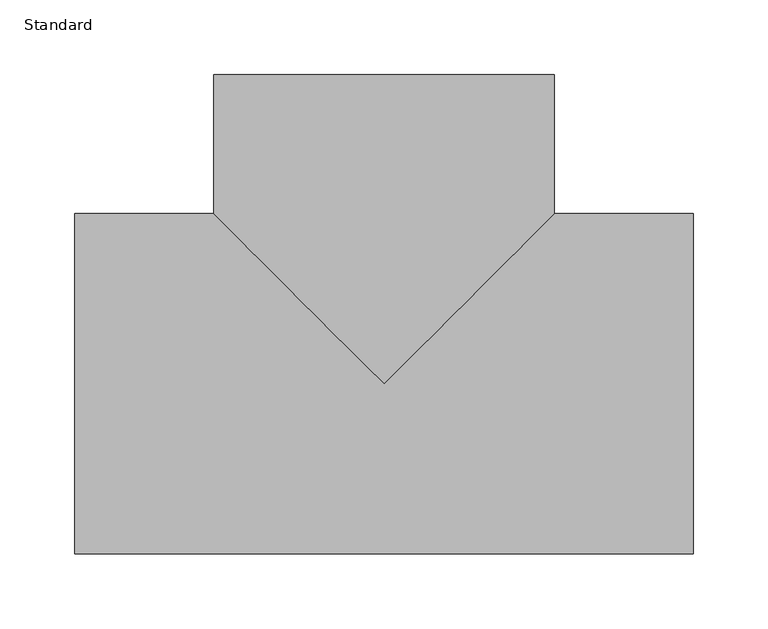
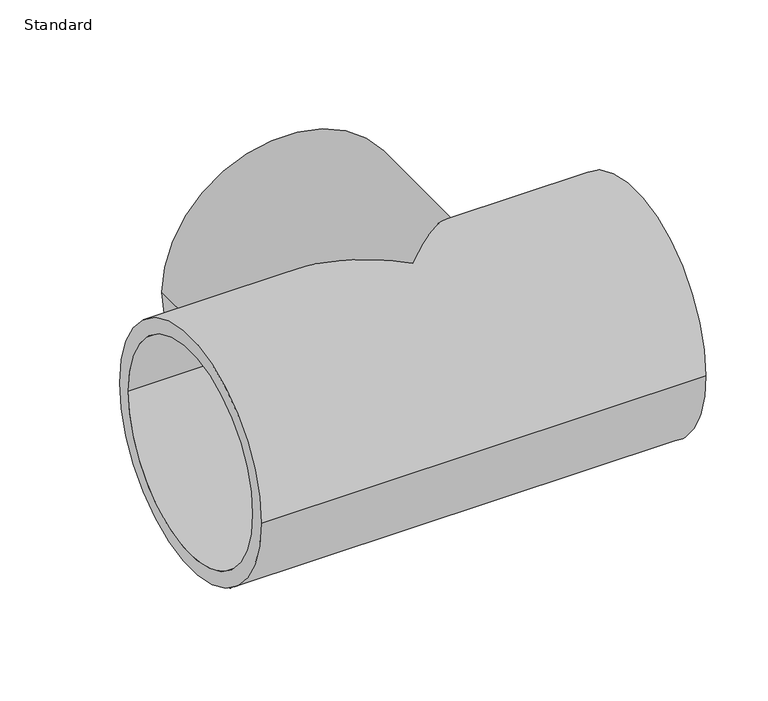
"""IFC4 building model written with IfcOpenShell, lengths in millimetres: pipe fitting geometry, Durapipe_PipeFitting_PVC_Tee90degEqual : Standard."""

import ifcopenshell
import ifcopenshell.guid

model = None  # the IFC model being written
_history = None  # IfcOwnerHistory: only IFC2X3 demands one
_inside = {}  # id of a spatial element -> (the spatial element, [elements in it])
_under = {}  # id of a project, library or spatial element -> (it, [spatial elements below it])
_declared = {}  # id of a project -> (the project, [libraries it declares])
_typed = {}  # id of a type object -> (the type object, [elements of that type])
_made_of = {}  # id of a material, layer set ... -> (it, [elements and type objects made of it])


def new_model(schema):
    """Start an empty IFC model of exactly this schema.

    Asked for "IFC4X3", IfcOpenShell would pick the latest addendum, in which some entities
    have other attributes; the version numbers below select the first issue.
    IFC2X3 requires an IfcOwnerHistory on every rooted entity: one is made here for all.
    """
    global model, _history
    if schema == "IFC4X3":
        model = ifcopenshell.file(schema_version=(4, 3, 0, 0))
    else:
        model = ifcopenshell.file(schema=schema)
    _inside.clear()
    _under.clear()
    _declared.clear()
    _typed.clear()
    _made_of.clear()
    _history = None
    if model.schema == "IFC2X3":
        org = make("IfcOrganization", Name="unknown")
        user = make(
            "IfcPersonAndOrganization",
            ThePerson=make("IfcPerson", FamilyName="unknown"),
            TheOrganization=org,
        )
        app = make(
            "IfcApplication",
            ApplicationDeveloper=org,
            Version="unknown",
            ApplicationFullName="unknown",
            ApplicationIdentifier="unknown",
        )
        _history = make(
            "IfcOwnerHistory",
            OwningUser=user,
            OwningApplication=app,
            ChangeAction="ADDED",
            CreationDate=0,
        )
    return model


def make(cls, **values):
    """One entity of the class cls with the attributes given. An attribute that is None is left unset."""
    return model.create_entity(
        cls, **{name: value for name, value in values.items() if value is not None}
    )


def rooted(cls, **values):
    """An entity with a GlobalId (a new one), such as an element, a storey or a relation."""
    return make(cls, GlobalId=ifcopenshell.guid.new(), OwnerHistory=_history, **values)


def si_unit(unit_type, name, prefix=None):
    """IfcSIUnit, for example si_unit("LENGTHUNIT", "METRE", prefix="MILLI")."""
    return make("IfcSIUnit", UnitType=unit_type, Prefix=prefix, Name=name)


def assignment(units):
    """IfcUnitAssignment: the units of a project."""
    return None if units is None else make("IfcUnitAssignment", Units=units)


def point(xyz):
    """IfcCartesianPoint."""
    return None if xyz is None else make("IfcCartesianPoint", Coordinates=xyz)


def direction(xyz):
    """IfcDirection."""
    return None if xyz is None else make("IfcDirection", DirectionRatios=xyz)


def frame(location, z_axis=None, x_axis=None):
    """IfcAxis2Placement3D, a coordinate frame: its origin and axes. An axis left out is left unset."""
    return make(
        "IfcAxis2Placement3D",
        Location=point(location),
        Axis=direction(z_axis),
        RefDirection=direction(x_axis),
    )


def origin():
    """The frame at (0, 0, 0) with its axes left unset."""
    return frame((0.0, 0.0, 0.0))


def place(relative_to, where):
    """IfcLocalPlacement: puts the frame where relative to a parent placement (None: the world)."""
    return make(
        "IfcLocalPlacement", PlacementRelTo=relative_to, RelativePlacement=where
    )


def context(
    kind, dimensions, precision=None, world=None, true_north=None, identifier=None
):
    """IfcGeometricRepresentationContext, for example the 3D "Model" context."""
    return make(
        "IfcGeometricRepresentationContext",
        ContextIdentifier=identifier,
        ContextType=kind,
        CoordinateSpaceDimension=dimensions,
        Precision=precision,
        WorldCoordinateSystem=world,
        TrueNorth=true_north,
    )


def project(units=None, contexts=None):
    """IfcProject with its units and contexts."""
    return rooted(
        "IfcProject",
        Name="project",
        RepresentationContexts=contexts,
        UnitsInContext=assignment(units),
    )


def spatial(cls, under=None, at=None, **own):
    """A site, building, storey or space (cls), placed at a placement, below another one or the project."""
    s = rooted(cls, ObjectPlacement=at, **own)
    if under is not None:
        _under.setdefault(under.id(), (under, []))[1].append(s)
    return s


def polyline(points):
    """IfcPolyline through the points."""
    return make("IfcPolyline", Points=[point(p) for p in points])


def circle_curve(where, radius):
    """IfcCircle in the frame where."""
    return make("IfcCircle", Position=where, Radius=radius)


def ellipse_curve(where, semi_axis1, semi_axis2):
    """IfcEllipse in the frame where."""
    return make(
        "IfcEllipse", Position=where, SemiAxis1=semi_axis1, SemiAxis2=semi_axis2
    )


def shape(context_of_items, identifier, shape_type, items):
    """IfcShapeRepresentation: the items that make up one representation, for example the "Body"."""
    return make(
        "IfcShapeRepresentation",
        ContextOfItems=context_of_items,
        RepresentationIdentifier=identifier,
        RepresentationType=shape_type,
        Items=items,
    )


def source(mapping_origin, context_of_items, identifier, shape_type, items):
    """IfcRepresentationMap: a shape defined once, which mapped items show again and again."""
    return make(
        "IfcRepresentationMap",
        MappingOrigin=mapping_origin,
        MappedRepresentation=shape(context_of_items, identifier, shape_type, items),
    )


def transform(
    local_origin,
    x_axis=None,
    y_axis=None,
    z_axis=None,
    scale=None,
    scale2=None,
    scale3=None,
    uniform=True,
):
    """IfcCartesianTransformationOperator3D, or its non-uniform kind. x_axis, y_axis, z_axis: its Axis1, 2, 3."""
    if uniform:
        return make(
            "IfcCartesianTransformationOperator3D",
            Axis1=direction(x_axis),
            Axis2=direction(y_axis),
            LocalOrigin=point(local_origin),
            Scale=scale,
            Axis3=direction(z_axis),
        )
    return make(
        "IfcCartesianTransformationOperator3DnonUniform",
        Axis1=direction(x_axis),
        Axis2=direction(y_axis),
        LocalOrigin=point(local_origin),
        Scale=scale,
        Axis3=direction(z_axis),
        Scale2=scale2,
        Scale3=scale3,
    )


def mapped(mapping_source, mapping_target):
    """IfcMappedItem: shows the shape of a source again, moved by a transform."""
    return make(
        "IfcMappedItem", MappingSource=mapping_source, MappingTarget=mapping_target
    )


def made_of(thing, what):
    """Note that an element or type object is made of a material, layer set ...; save() writes the relation."""
    if what is not None:
        _made_of.setdefault(what.id(), (what, []))[1].append(thing)
    return thing


def element(
    cls,
    number,
    at=None,
    inside=None,
    cuts=None,
    type_object=None,
    material=None,
    context=None,
    identifier="Body",
    shape_type=None,
    held_by="IfcProductDefinitionShape",
    body=None,
    shapes=None,
    **own,
):
    """One element of the class cls, such as IfcWall. Its Tag is "e" and its number.

    at: its placement. inside: the storey or other place that contains it. cuts: it is an
    opening in that element (IfcRelVoidsElement). A single representation is given by context,
    identifier, shape_type and body (its items); several are given by shapes. held_by: the class
    of the entity that holds the representations. save() writes the other relations.
    """
    e = rooted(cls, Tag="e%d" % number, ObjectPlacement=at, **own)
    if body is not None:
        shapes = [shape(context, identifier, shape_type, body)]
    if shapes is not None:
        e.Representation = make(held_by, Representations=shapes)
    if inside is not None:
        _inside.setdefault(inside.id(), (inside, []))[1].append(e)
    if cuts is not None:
        rooted(
            "IfcRelVoidsElement", RelatingBuildingElement=cuts, RelatedOpeningElement=e
        )
    if type_object is not None:
        _typed.setdefault(type_object.id(), (type_object, []))[1].append(e)
    return made_of(e, material)


def aggregate(whole, parts):
    """IfcRelAggregates: a whole, such as a stair, and the parts it consists of."""
    return rooted("IfcRelAggregates", RelatingObject=whole, RelatedObjects=parts)


def save(model, path):
    """Write the relations noted so far, then the file.

    IfcRelAggregates (storeys below a building ...), IfcRelContainedInSpatialStructure (elements
    in a storey), IfcRelDefinesByType, IfcRelAssociatesMaterial and IfcRelDeclares: one each for
    every whole, place, type object, material and project.
    """
    for whole, parts in _under.values():
        aggregate(whole, parts)
    for where, things in _inside.values():
        rooted(
            "IfcRelContainedInSpatialStructure",
            RelatedElements=things,
            RelatingStructure=where,
        )
    for kind, things in _typed.values():
        rooted("IfcRelDefinesByType", RelatedObjects=things, RelatingType=kind)
    for what, things in _made_of.values():
        rooted("IfcRelAssociatesMaterial", RelatedObjects=things, RelatingMaterial=what)
    for by, libraries in _declared.values():
        rooted("IfcRelDeclares", RelatingContext=by, RelatedDefinitions=libraries)
    model.write(path)


def plane_surface(at):
    """IfcPlane: the flat surface through the origin of the frame at, square to its z axis."""
    return make("IfcPlane", Position=at)


def cylinder_surface(at, radius):
    """IfcCylindricalSurface: all points at the distance radius from the z axis of the frame at."""
    return make("IfcCylindricalSurface", Position=at, Radius=radius)


def revolved_surface(curve, axis_point, axis_direction):
    """IfcSurfaceOfRevolution: the curve turned about the line through axis_point along axis_direction."""
    return make(
        "IfcSurfaceOfRevolution",
        SweptCurve=make("IfcArbitraryOpenProfileDef", ProfileType="CURVE", Curve=curve),
        AxisPosition=make("IfcAxis1Placement", Location=point(axis_point), Axis=direction(axis_direction)),
    )


def advanced_brep(points, edges, surfaces, faces):
    """IfcAdvancedBrep: a solid bounded by faces that lie on surfaces and meet in shared edges.

    An edge is (start, end): straight between two places in points (the first is 0);
    or (start, end, curve); or (start, end, curve, False) where it runs against its curve.
    A face is (place in surfaces, loops), or (place, loops, False) where it looks against
    its surface's normal. A loop lists edges by number (the first is 1), with a minus sign
    where the edge is run from its end to its start. The first loop is the outer one.
    """
    corners = [point(p) for p in points]
    vertices = [make("IfcVertexPoint", VertexGeometry=c) for c in corners]
    made = []
    for start, end, *more in edges:
        made.append(
            make(
                "IfcEdgeCurve",
                EdgeStart=vertices[start],
                EdgeEnd=vertices[end],
                EdgeGeometry=more[0] if more else make("IfcPolyline", Points=[corners[start], corners[end]]),
                SameSense=more[1] if len(more) > 1 else True,
            )
        )
    hull = []
    for where, loops, *sense in faces:
        bounds = []
        for j, loop in enumerate(loops):
            ring = [make("IfcOrientedEdge", EdgeElement=made[abs(k) - 1], Orientation=k > 0) for k in loop]
            bounds.append(
                make(
                    "IfcFaceOuterBound" if j == 0 else "IfcFaceBound",
                    Bound=make("IfcEdgeLoop", EdgeList=ring),
                    Orientation=True,
                )
            )
        hull.append(make("IfcAdvancedFace", Bounds=bounds, FaceSurface=surfaces[where], SameSense=sense[0] if sense else True))
    return make("IfcAdvancedBrep", Outer=make("IfcClosedShell", CfsFaces=hull))


def standard_b3bd9db2(model_context):
    return source(origin(), model_context, "Body", "AdvancedBrep", [
        advanced_brep(
        [(-114.0, 207.0, 0.0), (114.0, 207.0, 0.0), (-100.0, 207.0, 0.0), (100.0, 207.0, 0.0), (-114.0, 114.0, 0.0), (0.0, 0.0, 114.0), (114.0, 114.0, 0.0), (0.0, 0.0, -114.0), (-207.0, -114.0, 0.0), (-207.0, 114.0, 0.0), (-207.0, -100.0, 0.0), (-207.0, 100.0, 0.0), (207.0, -114.0, 0.0), (207.0, 114.0, 0.0), (207.0, 100.0, 0.0), (207.0, -100.0, 0.0), (100.0, 101.0, 0.0), (-100.0, 101.0, 0.0), (0.0, 101.0, 0.0), (101.0, -100.0, 0.0), (101.0, 100.0, 0.0), (101.0, 0.0, 0.0), (-101.0, -100.0, 0.0), (-101.0, 100.0, 0.0), (-101.0, 0.0, 0.0)],
        [
            (0, 1, circle_curve(frame((0.0, 207.0, 0.0), z_axis=(0.0, 1.0, 0.0), x_axis=(1.0, 0.0, 0.0)), 114.0)),
            (1, 0, circle_curve(frame((0.0, 207.0, 0.0), z_axis=(0.0, 1.0, 0.0), x_axis=(1.0, 0.0, 0.0)), 114.0)),
            (2, 3, circle_curve(frame((0.0, 207.0, 0.0), z_axis=(0.0, -1.0, 0.0), x_axis=(-1.0, 0.0, 0.0)), 100.0)),
            (3, 2, circle_curve(frame((0.0, 207.0, 0.0), z_axis=(0.0, -1.0, 0.0), x_axis=(-1.0, 0.0, 0.0)), 100.0)),
            (0, 4),
            (4, 5, ellipse_curve(frame((0.0, 0.0, 0.0), z_axis=(0.7071067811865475, 0.7071067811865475, 0.0), x_axis=(-0.7071067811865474, 0.7071067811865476, 0.0)), 161.2203461, 114.0)),
            (5, 6, ellipse_curve(frame((0.0, 0.0, 0.0), z_axis=(-0.7071067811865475, 0.7071067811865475, 0.0), x_axis=(0.7071067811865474, 0.7071067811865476, 0.0)), 161.2203461, 114.0)),
            (6, 1),
            (6, 7, ellipse_curve(frame((0.0, 0.0, 0.0), z_axis=(-0.7071067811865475, 0.7071067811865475, 0.0), x_axis=(0.7071067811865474, 0.7071067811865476, 0.0)), 161.2203461, 114.0)),
            (7, 4, ellipse_curve(frame((0.0, 0.0, 0.0), z_axis=(0.7071067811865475, 0.7071067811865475, 0.0), x_axis=(-0.7071067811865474, 0.7071067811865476, 0.0)), 161.2203461, 114.0)),
            (8, 9, circle_curve(frame((-207.0, 0.0, 0.0), z_axis=(-1.0, 0.0, 0.0), x_axis=(0.0, 1.0, 0.0)), 114.0)),
            (9, 8, circle_curve(frame((-207.0, 0.0, 0.0), z_axis=(-1.0, 0.0, 0.0), x_axis=(0.0, 1.0, 0.0)), 114.0)),
            (10, 11, circle_curve(frame((-207.0, 0.0, 0.0), z_axis=(1.0, 0.0, 0.0), x_axis=(0.0, 1.0, 0.0)), 100.0)),
            (11, 10, circle_curve(frame((-207.0, 0.0, 0.0), z_axis=(1.0, 0.0, 0.0), x_axis=(0.0, 1.0, 0.0)), 100.0)),
            (12, 13, circle_curve(frame((207.0, 0.0, 0.0), z_axis=(1.0, 0.0, 0.0), x_axis=(0.0, 1.0, 0.0)), 114.0)),
            (13, 12, circle_curve(frame((207.0, 0.0, 0.0), z_axis=(1.0, 0.0, 0.0), x_axis=(0.0, 1.0, 0.0)), 114.0)),
            (14, 15, circle_curve(frame((207.0, 0.0, 0.0), z_axis=(-1.0, 0.0, 0.0), x_axis=(0.0, 1.0, 0.0)), 100.0)),
            (15, 14, circle_curve(frame((207.0, 0.0, 0.0), z_axis=(-1.0, 0.0, 0.0), x_axis=(0.0, 1.0, 0.0)), 100.0)),
            (8, 12),
            (13, 6),
            (4, 9),
            (16, 3),
            (2, 17),
            (17, 16, circle_curve(frame((0.0, 101.0, 0.0), z_axis=(0.0, -1.0, 0.0), x_axis=(-1.0, 0.0, 0.0)), 100.0)),
            (16, 17, circle_curve(frame((0.0, 101.0, 0.0), z_axis=(0.0, -1.0, 0.0), x_axis=(-1.0, 0.0, 0.0)), 100.0)),
            (17, 18),
            (18, 16),
            (19, 15),
            (14, 20),
            (20, 19, circle_curve(frame((101.0, 0.0, 0.0), z_axis=(-1.0, 0.0, 0.0), x_axis=(0.0, 1.0, 0.0)), 100.0)),
            (19, 20, circle_curve(frame((101.0, 0.0, 0.0), z_axis=(-1.0, 0.0, 0.0), x_axis=(0.0, 1.0, 0.0)), 100.0)),
            (20, 21),
            (21, 19),
            (10, 22),
            (22, 23, circle_curve(frame((-101.0, 0.0, 0.0), z_axis=(1.0, 0.0, 0.0), x_axis=(0.0, 1.0, 0.0)), 100.0)),
            (23, 11),
            (23, 22, circle_curve(frame((-101.0, 0.0, 0.0), z_axis=(1.0, 0.0, 0.0), x_axis=(0.0, 1.0, 0.0)), 100.0)),
            (22, 24),
            (24, 23),
        ],
        [
            plane_surface(frame((0.0, 207.0, 0.0), z_axis=(0.0, 1.0, 0.0), x_axis=(0.0, 0.0, 1.0))),
            cylinder_surface(frame((0.0, 207.0, 0.0), z_axis=(0.0, 1.0, 0.0), x_axis=(1.0, 0.0, 0.0)), 114.0),
            plane_surface(frame((-207.0, 0.0, 0.0), z_axis=(-1.0, 0.0, 0.0), x_axis=(0.0, 0.0, 1.0))),
            plane_surface(frame((207.0, 0.0, 0.0), z_axis=(1.0, 0.0, 0.0), x_axis=(0.0, 0.0, 1.0))),
            cylinder_surface(frame((-207.0, 0.0, 0.0), z_axis=(-1.0, 0.0, 0.0), x_axis=(0.0, 1.0, 0.0)), 114.0),
            revolved_surface(polyline([(-100.0, 101.0, 0.0), (-100.0, 207.0, 0.0)]), (0.0, 2182.0, 0.0), (0.0, -1.0, 0.0)),
            plane_surface(frame((0.0, 101.0, 0.0), z_axis=(0.0, 1.0, 0.0), x_axis=(-1.0, 0.0, 0.0))),
            revolved_surface(polyline([(101.0, 100.0, 0.0), (207.0, 100.0, 0.0)]), (2183.5, 0.0, 0.0), (-1.0, 0.0, 0.0)),
            plane_surface(frame((101.0, 0.0, 0.0), z_axis=(1.0, 0.0, 0.0), x_axis=(0.0, 1.0, 0.0))),
            revolved_surface(polyline([(-207.0, 100.0, 0.0), (-101.0, 100.0, 0.0)]), (2183.5, 0.0, 0.0), (-1.0, 0.0, 0.0)),
            plane_surface(frame((-101.0, 0.0, 0.0), z_axis=(-1.0, 0.0, 0.0), x_axis=(0.0, 1.0, 0.0))),
        ],
        [
            (0, [[1, 2], [3, 4]]),
            (1, [[-1, 5, 6, 7, 8]]),
            (1, [[-2, -8, 9, 10, -5]]),
            (2, [[11, 12], [13, 14]]),
            (3, [[15, 16], [17, 18]]),
            (4, [[-11, 19, -16, 20, -7, -6, 21]]),
            (4, [[-12, -21, -10, -9, -20, -15, -19]]),
            (5, [[22, -3, 23, 24]]),
            (5, [[-22, 25, -23, -4]]),
            (6, [[-24, 26, 27]]),
            (6, [[-25, -27, -26]]),
            (7, [[28, -17, 29, 30]]),
            (7, [[-28, 31, -29, -18]]),
            (8, [[-30, 32, 33]]),
            (8, [[-31, -33, -32]]),
            (9, [[34, 35, 36, -13]]),
            (9, [[-34, -14, -36, 37]]),
            (10, [[-35, 38, 39]]),
            (10, [[-37, -39, -38]]),
        ],
    ),
    ])


if __name__ == "__main__":
    model = new_model("IFC4")
    model_context = context("Model", 3, world=origin())
    ifc_project = project(units=[si_unit("LENGTHUNIT", "METRE", prefix="MILLI")], contexts=[model_context])
    site = spatial("IfcSite", under=ifc_project)
    building = spatial("IfcBuilding", under=site)
    placement = place(None, origin())
    standard_shape = standard_b3bd9db2(model_context)
    element("IfcPipeFitting", 1, ObjectType="Durapipe_PipeFitting_PVC_Tee90degEqual : Standard", at=placement, inside=building, context=model_context, shape_type="MappedRepresentation", body=[
        mapped(standard_shape, transform((0.0, 0.0, 0.0), x_axis=(1.0, 0.0, 0.0), y_axis=(0.0, 1.0, 0.0), z_axis=(0.0, 0.0, 1.0))),
    ])
    save(model, "model.ifc")
